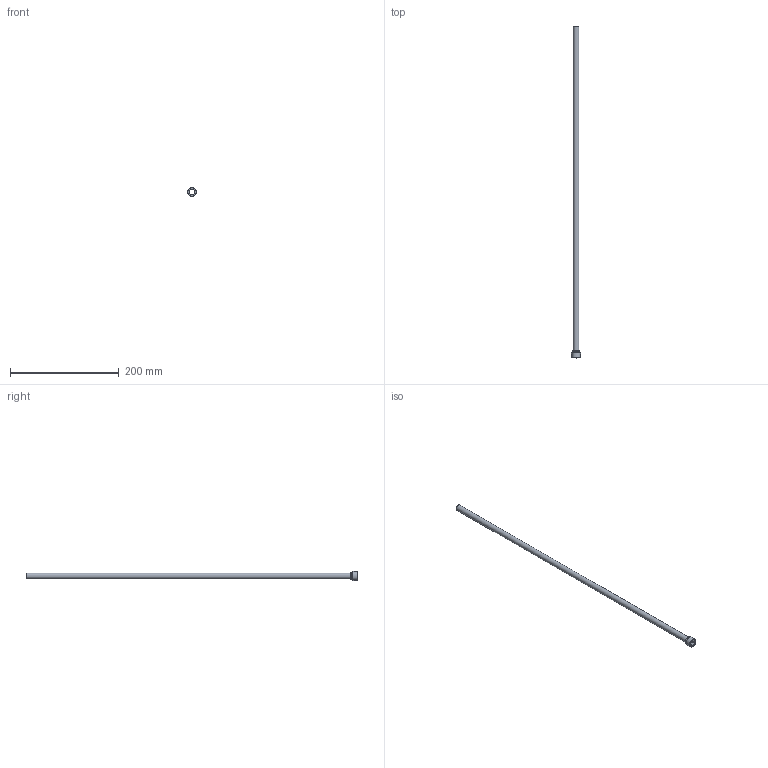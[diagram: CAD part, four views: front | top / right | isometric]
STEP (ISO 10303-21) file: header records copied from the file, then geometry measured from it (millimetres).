
FILE_DESCRIPTION(/* description */ (''),/* implementation_level */ '2;1');
FILE_NAME(/* name */ 'C:/Users/drich/Desktop/PT38-437-24 v1.step',/* time_stamp */ '2019-12-27T15:57:29-06:00',/* author */ (''),/* organization */ (''),/* preprocessor_version */ 'ST-DEVELOPER v18',/* originating_system */ 'Autodesk Translation Framework v8.12.0.6',/* authorisation */ '');
FILE_SCHEMA (('AUTOMOTIVE_DESIGN { 1 0 10303 214 3 1 1 }'));
Length unit declared in the file: inch
Products named in the file (1): PT38-437-24
Bounding box: 16.54 x 609.6 x 16.54 mm (x, y, z)
Volume: 8776.1 mm3; surface area: 40473.6 mm2
Topology: 1 solids, 1 shells, 30 faces, 71 edges, 45 vertices
Faces by surface type: plane 22, cylinder 4, torus 2, cone 2
Full cylindrical faces by diameter (mm): 10.084 x1, 10.82 x1, 13.868 x1, 16.537 x1
Entity records: 913 total; most frequent: DIRECTION 168, CARTESIAN_POINT 147, ORIENTED_EDGE 142, EDGE_CURVE 71, AXIS2_PLACEMENT_3D 66, VERTEX_POINT 45, LINE 36, VECTOR 36
